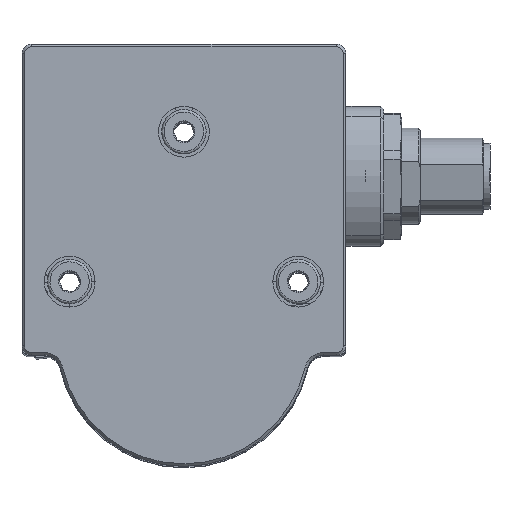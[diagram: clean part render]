
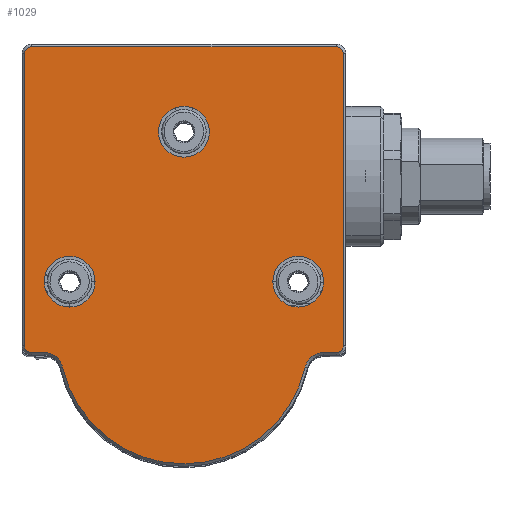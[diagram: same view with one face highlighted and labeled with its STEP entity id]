
A CAD part, top view. The second image highlights one B-rep face of the part: STEP entity #1029.
In plain terms, the highlighted planar face has unit normal (0, 0, 1).
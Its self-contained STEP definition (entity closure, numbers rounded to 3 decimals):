
#501 = CARTESIAN_POINT ( 'NONE',  ( 85.5, -85.979, 210.412 ) ) ;
#505 = DIRECTION ( 'NONE',  ( 0., 0., 1. ) ) ;
#640 = DIRECTION ( 'NONE',  ( 0., 0., -1. ) ) ;
#756 = ORIENTED_EDGE ( 'NONE', *, *, #10473, .T. ) ;
#772 = DIRECTION ( 'NONE',  ( -1., 0., 0. ) ) ;
#1029 = ADVANCED_FACE ( 'NONE', ( #11347, #11683, #8470, #2633 ), #22180, .T. ) ;
#1167 = CIRCLE ( 'NONE', #9428, 2.9 ) ;
#1227 = CIRCLE ( 'NONE', #14363, 19.6 ) ;
#1447 = VERTEX_POINT ( 'NONE', #3113 ) ;
#1682 = EDGE_CURVE ( 'NONE', #13166, #8039, #2172, .T. ) ;
#2059 = VERTEX_POINT ( 'NONE', #12826 ) ;
#2172 = LINE ( 'NONE', #5473, #21864 ) ;
#2279 = EDGE_LOOP ( 'NONE', ( #7038 ) ) ;
#2505 = DIRECTION ( 'NONE',  ( -1., 0., 0. ) ) ;
#2506 = EDGE_CURVE ( 'NONE', #6143, #11012, #3602, .T. ) ;
#2538 = CARTESIAN_POINT ( 'NONE',  ( 37.5, -87.079, 210.412 ) ) ;
#2633 = FACE_BOUND ( 'NONE', #18144, .T. ) ;
#2939 = CARTESIAN_POINT ( 'NONE',  ( 37.5, -38.879, 210.412 ) ) ;
#3113 = CARTESIAN_POINT ( 'NONE',  ( 39.5, -75.879, 210.412 ) ) ;
#3175 = CIRCLE ( 'NONE', #3936, 1.1 ) ;
#3296 = AXIS2_PLACEMENT_3D ( 'NONE', #9500, #4438, #772 ) ;
#3418 = EDGE_CURVE ( 'NONE', #8039, #6143, #12713, .T. ) ;
#3533 = CARTESIAN_POINT ( 'NONE',  ( 85.5, -39.979, 210.412 ) ) ;
#3602 = LINE ( 'NONE', #2939, #19451 ) ;
#3849 = CARTESIAN_POINT ( 'NONE',  ( 39.563, -87.079, 210.412 ) ) ;
#3852 = CARTESIAN_POINT ( 'NONE',  ( 86.6, -85.979, 210.412 ) ) ;
#3936 = AXIS2_PLACEMENT_3D ( 'NONE', #9343, #19952, #20078 ) ;
#4172 = CARTESIAN_POINT ( 'NONE',  ( 83.438, -87.079, 210.412 ) ) ;
#4289 = DIRECTION ( 'NONE',  ( -1., 0., 0. ) ) ;
#4438 = DIRECTION ( 'NONE',  ( 0., 0., 1. ) ) ;
#4737 = VERTEX_POINT ( 'NONE', #15710 ) ;
#5070 = EDGE_CURVE ( 'NONE', #18117, #21808, #10569, .T. ) ;
#5386 = DIRECTION ( 'NONE',  ( -1., 0., 0. ) ) ;
#5473 = CARTESIAN_POINT ( 'NONE',  ( 86.6, -39.979, 210.412 ) ) ;
#5970 = CARTESIAN_POINT ( 'NONE',  ( 36.4, -85.979, 210.412 ) ) ;
#6048 = DIRECTION ( 'NONE',  ( -1., 0., 0. ) ) ;
#6143 = VERTEX_POINT ( 'NONE', #21860 ) ;
#6228 = ORIENTED_EDGE ( 'NONE', *, *, #18287, .F. ) ;
#6396 = DIRECTION ( 'NONE',  ( 0., 0., 1. ) ) ;
#6692 = VERTEX_POINT ( 'NONE', #3849 ) ;
#6994 = LINE ( 'NONE', #13904, #12298 ) ;
#7038 = ORIENTED_EDGE ( 'NONE', *, *, #19195, .F. ) ;
#7184 = AXIS2_PLACEMENT_3D ( 'NONE', #18362, #505, #4289 ) ;
#7200 = EDGE_CURVE ( 'NONE', #7851, #13166, #20691, .T. ) ;
#7336 = CARTESIAN_POINT ( 'NONE',  ( 86.6, -39.979, 210.412 ) ) ;
#7487 = CARTESIAN_POINT ( 'NONE',  ( 61.5, -84.979, 210.412 ) ) ;
#7567 = DIRECTION ( 'NONE',  ( 0., 0., 1. ) ) ;
#7806 = CARTESIAN_POINT ( 'NONE',  ( 39.563, -89.979, 210.412 ) ) ;
#7851 = VERTEX_POINT ( 'NONE', #13917 ) ;
#7984 = ORIENTED_EDGE ( 'NONE', *, *, #10745, .T. ) ;
#8039 = VERTEX_POINT ( 'NONE', #7336 ) ;
#8128 = ORIENTED_EDGE ( 'NONE', *, *, #15469, .T. ) ;
#8169 = DIRECTION ( 'NONE',  ( -1., 0., 0. ) ) ;
#8273 = ORIENTED_EDGE ( 'NONE', *, *, #7200, .T. ) ;
#8303 = VECTOR ( 'NONE', #16037, 1000. ) ;
#8470 = FACE_BOUND ( 'NONE', #18494, .T. ) ;
#8762 = ORIENTED_EDGE ( 'NONE', *, *, #20306, .T. ) ;
#8872 = CARTESIAN_POINT ( 'NONE',  ( 85.5, -87.079, 210.412 ) ) ;
#9343 = CARTESIAN_POINT ( 'NONE',  ( 37.5, -39.979, 210.412 ) ) ;
#9428 = AXIS2_PLACEMENT_3D ( 'NONE', #11372, #640, #8169 ) ;
#9500 = CARTESIAN_POINT ( 'NONE',  ( 43.5, -75.879, 210.412 ) ) ;
#9508 = AXIS2_PLACEMENT_3D ( 'NONE', #9610, #13248, #15243 ) ;
#9610 = CARTESIAN_POINT ( 'NONE',  ( 79.5, -75.879, 210.412 ) ) ;
#9903 = EDGE_CURVE ( 'NONE', #21808, #6692, #6994, .T. ) ;
#9960 = AXIS2_PLACEMENT_3D ( 'NONE', #7806, #17051, #2505 ) ;
#10183 = DIRECTION ( 'NONE',  ( 0., 0., 1. ) ) ;
#10473 = EDGE_CURVE ( 'NONE', #11178, #7851, #12066, .T. ) ;
#10486 = VERTEX_POINT ( 'NONE', #23245 ) ;
#10569 = CIRCLE ( 'NONE', #11336, 1.1 ) ;
#10674 = VECTOR ( 'NONE', #13000, 1000. ) ;
#10745 = EDGE_CURVE ( 'NONE', #2059, #11178, #1167, .T. ) ;
#10775 = CARTESIAN_POINT ( 'NONE',  ( 36.4, -85.979, 210.412 ) ) ;
#10991 = CIRCLE ( 'NONE', #9508, 4. ) ;
#11012 = VERTEX_POINT ( 'NONE', #19869 ) ;
#11119 = ORIENTED_EDGE ( 'NONE', *, *, #12553, .T. ) ;
#11178 = VERTEX_POINT ( 'NONE', #4172 ) ;
#11336 = AXIS2_PLACEMENT_3D ( 'NONE', #16461, #7567, #18231 ) ;
#11347 = FACE_OUTER_BOUND ( 'NONE', #14090, .T. ) ;
#11372 = CARTESIAN_POINT ( 'NONE',  ( 83.438, -89.979, 210.412 ) ) ;
#11551 = ORIENTED_EDGE ( 'NONE', *, *, #2506, .T. ) ;
#11683 = FACE_BOUND ( 'NONE', #2279, .T. ) ;
#12066 = LINE ( 'NONE', #8872, #8303 ) ;
#12298 = VECTOR ( 'NONE', #22763, 1000. ) ;
#12553 = EDGE_CURVE ( 'NONE', #6692, #4737, #20124, .T. ) ;
#12713 = CIRCLE ( 'NONE', #15724, 1.1 ) ;
#12826 = CARTESIAN_POINT ( 'NONE',  ( 80.61, -89.335, 210.412 ) ) ;
#13000 = DIRECTION ( 'NONE',  ( 0., -1., 0. ) ) ;
#13166 = VERTEX_POINT ( 'NONE', #3852 ) ;
#13242 = DIRECTION ( 'NONE',  ( -1., 0., 0. ) ) ;
#13248 = DIRECTION ( 'NONE',  ( 0., 0., 1. ) ) ;
#13428 = CIRCLE ( 'NONE', #3296, 4. ) ;
#13893 = AXIS2_PLACEMENT_3D ( 'NONE', #501, #6396, #6048 ) ;
#13904 = CARTESIAN_POINT ( 'NONE',  ( 39.563, -87.079, 210.412 ) ) ;
#13917 = CARTESIAN_POINT ( 'NONE',  ( 85.5, -87.079, 210.412 ) ) ;
#14090 = EDGE_LOOP ( 'NONE', ( #22407, #11551, #8762, #17890, #22295, #18487, #11119, #8128, #7984, #756, #8273, #22969 ) ) ;
#14363 = AXIS2_PLACEMENT_3D ( 'NONE', #7487, #21752, #13242 ) ;
#14384 = EDGE_CURVE ( 'NONE', #10486, #18117, #16290, .T. ) ;
#15243 = DIRECTION ( 'NONE',  ( -1., 0., 0. ) ) ;
#15469 = EDGE_CURVE ( 'NONE', #4737, #2059, #1227, .T. ) ;
#15517 = DIRECTION ( 'NONE',  ( 0., 0., 1. ) ) ;
#15553 = CARTESIAN_POINT ( 'NONE',  ( 75.5, -75.879, 210.412 ) ) ;
#15684 = CARTESIAN_POINT ( 'NONE',  ( 61.5, -52.279, 210.412 ) ) ;
#15710 = CARTESIAN_POINT ( 'NONE',  ( 42.39, -89.335, 210.412 ) ) ;
#15724 = AXIS2_PLACEMENT_3D ( 'NONE', #3533, #15517, #21420 ) ;
#16037 = DIRECTION ( 'NONE',  ( 1., 0., 0. ) ) ;
#16290 = LINE ( 'NONE', #5970, #10674 ) ;
#16461 = CARTESIAN_POINT ( 'NONE',  ( 37.5, -85.979, 210.412 ) ) ;
#17051 = DIRECTION ( 'NONE',  ( 0., 0., -1. ) ) ;
#17661 = VERTEX_POINT ( 'NONE', #20979 ) ;
#17890 = ORIENTED_EDGE ( 'NONE', *, *, #14384, .T. ) ;
#18117 = VERTEX_POINT ( 'NONE', #10775 ) ;
#18144 = EDGE_LOOP ( 'NONE', ( #6228 ) ) ;
#18231 = DIRECTION ( 'NONE',  ( -1., 0., 0. ) ) ;
#18287 = EDGE_CURVE ( 'NONE', #17661, #17661, #19934, .T. ) ;
#18362 = CARTESIAN_POINT ( 'NONE',  ( 61.5, -62.979, 210.412 ) ) ;
#18369 = DIRECTION ( 'NONE',  ( 0., 1., 0. ) ) ;
#18487 = ORIENTED_EDGE ( 'NONE', *, *, #9903, .T. ) ;
#18494 = EDGE_LOOP ( 'NONE', ( #22700 ) ) ;
#19195 = EDGE_CURVE ( 'NONE', #23099, #23099, #10991, .T. ) ;
#19362 = DIRECTION ( 'NONE',  ( -1., 0., 0. ) ) ;
#19451 = VECTOR ( 'NONE', #5386, 1000. ) ;
#19563 = AXIS2_PLACEMENT_3D ( 'NONE', #15684, #10183, #19362 ) ;
#19869 = CARTESIAN_POINT ( 'NONE',  ( 37.5, -38.879, 210.412 ) ) ;
#19934 = CIRCLE ( 'NONE', #19563, 4. ) ;
#19952 = DIRECTION ( 'NONE',  ( 0., 0., 1. ) ) ;
#20078 = DIRECTION ( 'NONE',  ( -1., 0., 0. ) ) ;
#20124 = CIRCLE ( 'NONE', #9960, 2.9 ) ;
#20306 = EDGE_CURVE ( 'NONE', #11012, #10486, #3175, .T. ) ;
#20691 = CIRCLE ( 'NONE', #13893, 1.1 ) ;
#20979 = CARTESIAN_POINT ( 'NONE',  ( 57.5, -52.279, 210.412 ) ) ;
#21420 = DIRECTION ( 'NONE',  ( -1., 0., 0. ) ) ;
#21752 = DIRECTION ( 'NONE',  ( 0., 0., 1. ) ) ;
#21808 = VERTEX_POINT ( 'NONE', #2538 ) ;
#21860 = CARTESIAN_POINT ( 'NONE',  ( 85.5, -38.879, 210.412 ) ) ;
#21864 = VECTOR ( 'NONE', #18369, 1000. ) ;
#22164 = EDGE_CURVE ( 'NONE', #1447, #1447, #13428, .T. ) ;
#22180 = PLANE ( 'NONE',  #7184 ) ;
#22295 = ORIENTED_EDGE ( 'NONE', *, *, #5070, .T. ) ;
#22407 = ORIENTED_EDGE ( 'NONE', *, *, #3418, .T. ) ;
#22700 = ORIENTED_EDGE ( 'NONE', *, *, #22164, .F. ) ;
#22763 = DIRECTION ( 'NONE',  ( 1., 0., 0. ) ) ;
#22969 = ORIENTED_EDGE ( 'NONE', *, *, #1682, .T. ) ;
#23099 = VERTEX_POINT ( 'NONE', #15553 ) ;
#23245 = CARTESIAN_POINT ( 'NONE',  ( 36.4, -39.979, 210.412 ) ) ;
